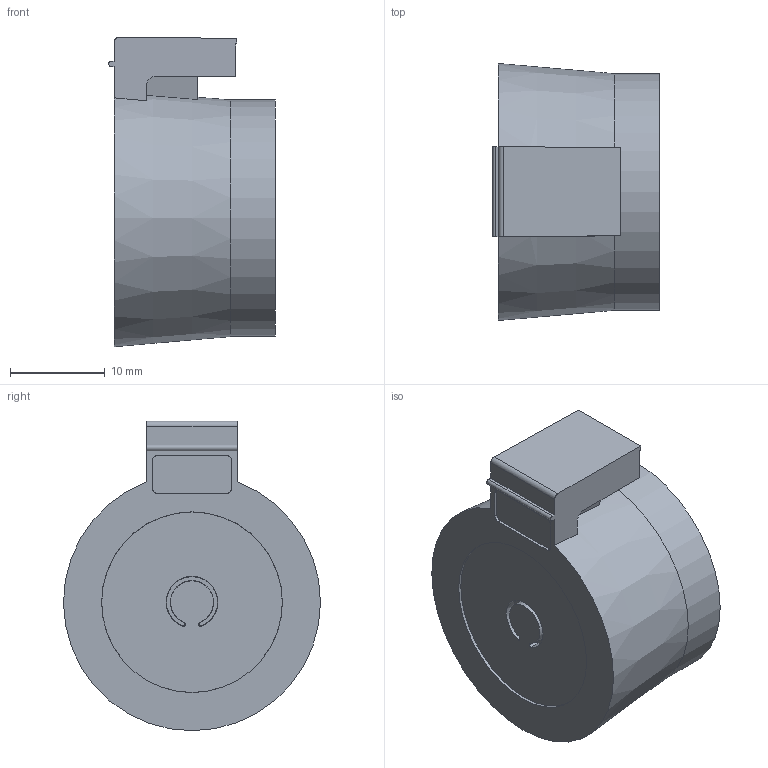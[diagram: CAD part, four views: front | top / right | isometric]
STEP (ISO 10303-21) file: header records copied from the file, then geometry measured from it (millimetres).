
FILE_DESCRIPTION(/* description */ (''),/* implementation_level */ '2;1');
FILE_NAME(/* name */ 'C:\SapWorkDir\Inventor\MP1\ConvertTempPath\87_12_121521_00_B_220624_BTG-X-Vario 7-16.stp',/* time_stamp */ '2022-06-24T14:01:58+02:00',/* author */ ('BAUER'),/* organization */ (''),/* preprocessor_version */ 'ST-DEVELOPER v16.13',/* originating_system */ 'Autodesk Inventor 2018',/* authorisation */ '');
FILE_SCHEMA (('AUTOMOTIVE_DESIGN { 1 0 10303 214 3 1 1 }'));
Length unit declared in the file: millimetre
Products named in the file (1): 121521
Bounding box: 17.6 x 27.14 x 32.68 mm (x, y, z)
Volume: 5109 mm3; surface area: 3778.5 mm2
Topology: 1 solids, 1 shells, 106 faces, 282 edges, 189 vertices
Faces by surface type: plane 77, bspline 14, cylinder 10, cone 5
Full cylindrical faces by diameter (mm): 25 x1
Entity records: 3470 total; most frequent: CARTESIAN_POINT 846, ORIENTED_EDGE 550, DIRECTION 479, EDGE_CURVE 275, LINE 205, VECTOR 205, VERTEX_POINT 186, AXIS2_PLACEMENT_3D 137
